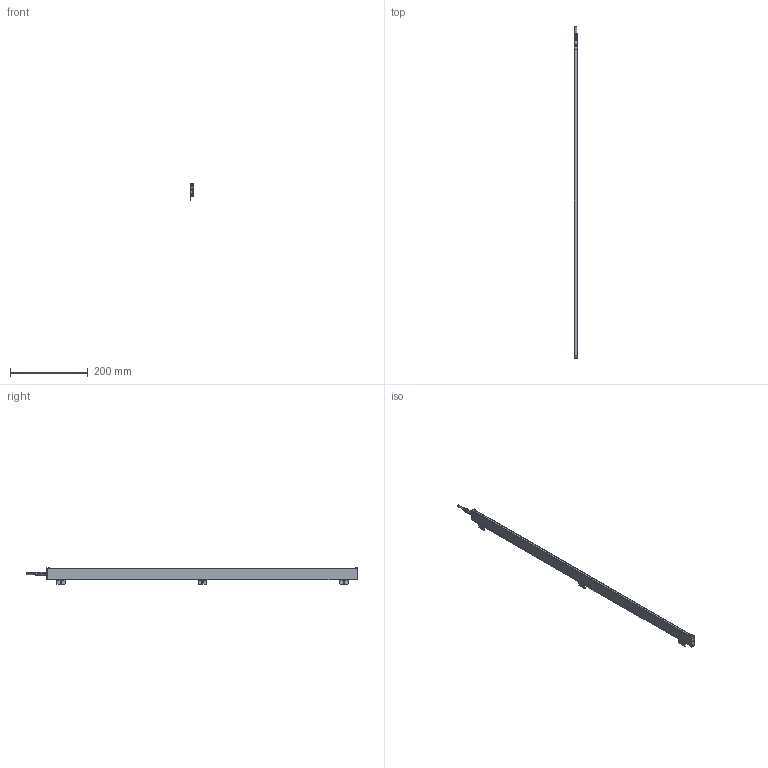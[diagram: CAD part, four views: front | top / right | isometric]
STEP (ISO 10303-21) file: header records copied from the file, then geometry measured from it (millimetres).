
FILE_DESCRIPTION (( 'STEP AP214' ), '1' );
FILE_NAME ('ILG-N-K2-0800mm.STEP', '2017-07-10T13:48:31', ( '' ), ( '' ), 'SwSTEP 2.0', 'SolidWorks 2016', '' );
FILE_SCHEMA (( 'AUTOMOTIVE_DESIGN' ));
Length unit declared in the file: millimetre
Products named in the file (1): ILG-N-K2-0800mm
Bounding box: 10.23 x 853.5 x 42.41 mm (x, y, z)
Surface area: 139356.4 mm2 (no closed solid volume)
Topology: 0 solids, 16 shells, 781 faces, 2020 edges, 1269 vertices
Faces by surface type: plane 346, cylinder 297, cone 90, bspline 32, torus 16
Entity records: 34483 total; most frequent: CARTESIAN_POINT 6956, ORIENTED_EDGE 3993, DIRECTION 3858, EDGE_CURVE 2004, AXIS2_PLACEMENT_3D 1419, VERTEX_POINT 1269, VECTOR 1020, LINE 1020
